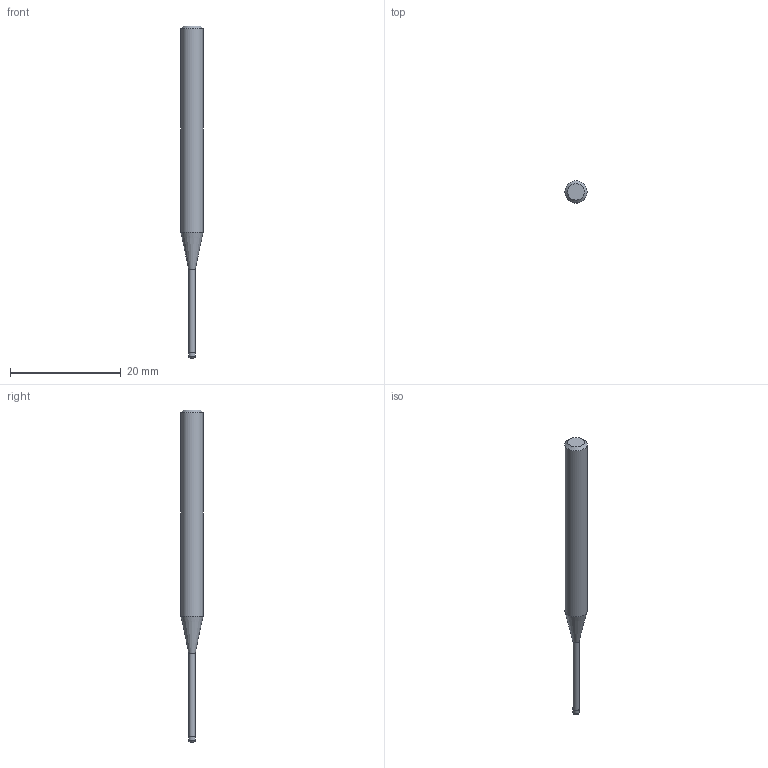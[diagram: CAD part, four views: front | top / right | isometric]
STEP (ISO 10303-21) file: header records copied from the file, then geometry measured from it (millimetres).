
FILE_DESCRIPTION((''),'2;1');
FILE_NAME('C:\Users\nsx150\AppData\Local\Temp\Mastercam 2021\17T8Q8S9EB\TEMP.step','2021-04-21T14:35:21',(''),(''),'STEP Write','Mastercam 2021 ... CNC Software, Inc.','');
FILE_SCHEMA(('AUTOMOTIVE_DESIGN'));
Length unit declared in the file: millimetre
Products named in the file (1): None
Bounding box: 4 x 4 x 60 mm (x, y, z)
Volume: 521.8 mm3; surface area: 592.7 mm2
Topology: 2 solids, 2 shells, 10 faces, 14 edges, 8 vertices
Faces by surface type: plane 4, cylinder 3, cone 2, torus 1
Full cylindrical faces by diameter (mm): 1.14 x1, 1.2 x1, 4 x1
Entity records: 232 total; most frequent: DIRECTION 40, CARTESIAN_POINT 28, AXIS2_PLACEMENT_3D 20, ORIENTED_EDGE 16, EDGE_LOOP 16, STYLED_ITEM 13, ADVANCED_FACE 10, FACE_BOUND 10
